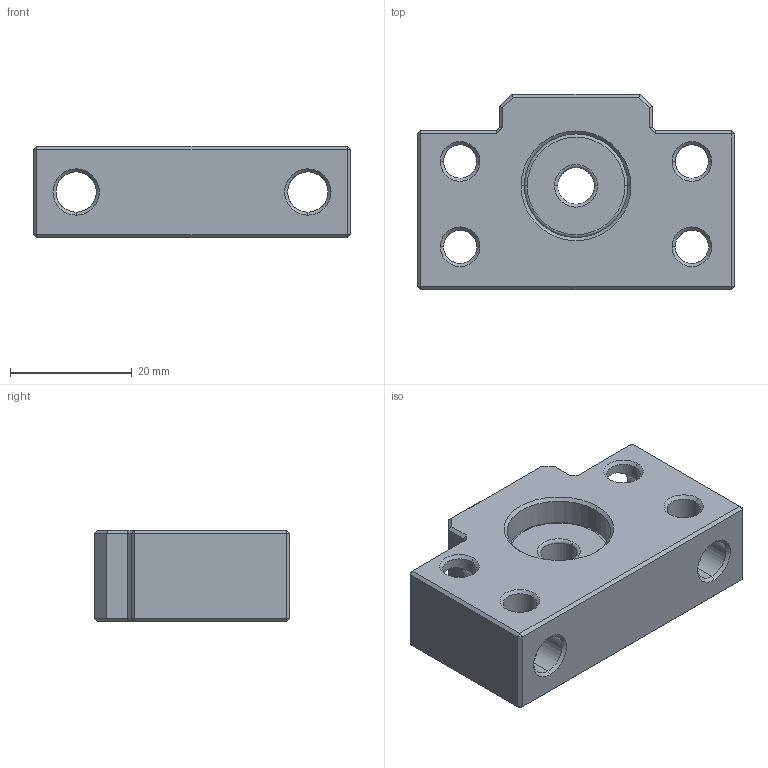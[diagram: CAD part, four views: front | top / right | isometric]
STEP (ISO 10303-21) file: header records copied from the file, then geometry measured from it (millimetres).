
FILE_DESCRIPTION (( 'STEP AP203' ), '1' );
FILE_NAME ('AF8.STEP', '2013-07-18T06:59:42', ( 'MYCOM' ), ( '' ), 'SwSTEP 2.0', 'SolidWorks 2012', '' );
FILE_SCHEMA (( 'CONFIG_CONTROL_DESIGN' ));
Length unit declared in the file: millimetre
Products named in the file (1): AF8
Bounding box: 52 x 32 x 15 mm (x, y, z)
Volume: 16284.1 mm3; surface area: 7249.8 mm2
Topology: 1 solids, 1 shells, 120 faces, 294 edges, 170 vertices
Faces by surface type: plane 54, cylinder 30, cone 28, torus 8
Entity records: 4029 total; most frequent: CARTESIAN_POINT 1113, DIRECTION 594, ORIENTED_EDGE 588, EDGE_CURVE 294, AXIS2_PLACEMENT_3D 211, VECTOR 172, LINE 172, VERTEX_POINT 170
